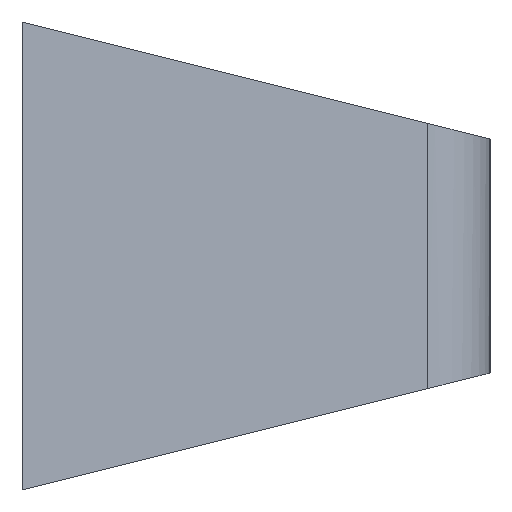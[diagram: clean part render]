
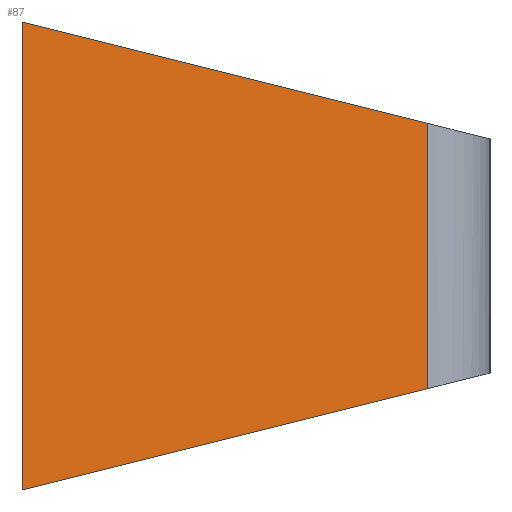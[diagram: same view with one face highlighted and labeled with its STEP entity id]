
A CAD part, left-side view. The second image highlights one B-rep face of the part: STEP entity #87.
In plain terms, the highlighted planar face has unit normal (-0.98, -0.197, 0).
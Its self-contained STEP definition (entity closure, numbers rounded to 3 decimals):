
#87 = ADVANCED_FACE( '', ( #120 ), #121, .T. );
#120 = FACE_OUTER_BOUND( '', #162, .T. );
#121 = PLANE( '', #163 );
#162 = EDGE_LOOP( '', ( #276, #277, #278, #279 ) );
#163 = AXIS2_PLACEMENT_3D( '', #280, #281, #282 );
#276 = ORIENTED_EDGE( '', *, *, #366, .T. );
#277 = ORIENTED_EDGE( '', *, *, #378, .T. );
#278 = ORIENTED_EDGE( '', *, *, #354, .T. );
#279 = ORIENTED_EDGE( '', *, *, #379, .F. );
#280 = CARTESIAN_POINT( '', ( -8., 0., 15. ) );
#281 = DIRECTION( '', ( -0.98, -0.197, 0. ) );
#282 = DIRECTION( '', ( -0.197, 0.98, 0. ) );
#354 = EDGE_CURVE( '', #417, #415, #418, .T. );
#366 = EDGE_CURVE( '', #441, #439, #442, .T. );
#378 = EDGE_CURVE( '', #439, #417, #458, .T. );
#379 = EDGE_CURVE( '', #441, #415, #459, .T. );
#415 = VERTEX_POINT( '', #503 );
#417 = VERTEX_POINT( '', #505 );
#418 = LINE( '', #506, #507 );
#439 = VERTEX_POINT( '', #534 );
#441 = VERTEX_POINT( '', #537 );
#442 = LINE( '', #538, #539 );
#458 = LINE( '', #564, #565 );
#459 = LINE( '', #566, #567 );
#503 = CARTESIAN_POINT( '', ( -2.783, -25.984, -8.504 ) );
#505 = CARTESIAN_POINT( '', ( -8., 0., -15. ) );
#506 = CARTESIAN_POINT( '', ( 16.921, -124.115, 16.029 ) );
#507 = VECTOR( '', #614, 1. );
#534 = CARTESIAN_POINT( '', ( -8., 0., 15. ) );
#537 = CARTESIAN_POINT( '', ( -2.783, -25.984, 8.504 ) );
#538 = CARTESIAN_POINT( '', ( 19.141, -135.166, -18.792 ) );
#539 = VECTOR( '', #634, 1. );
#564 = CARTESIAN_POINT( '', ( -8., 0., 15. ) );
#565 = VECTOR( '', #650, 1. );
#566 = CARTESIAN_POINT( '', ( -2.783, -25.984, 15. ) );
#567 = VECTOR( '', #651, 1. );
#614 = DIRECTION( '', ( 0.191, -0.952, 0.238 ) );
#634 = DIRECTION( '', ( -0.191, 0.952, 0.238 ) );
#650 = DIRECTION( '', ( 0., 0., -1. ) );
#651 = DIRECTION( '', ( 0., 0., -1. ) );
